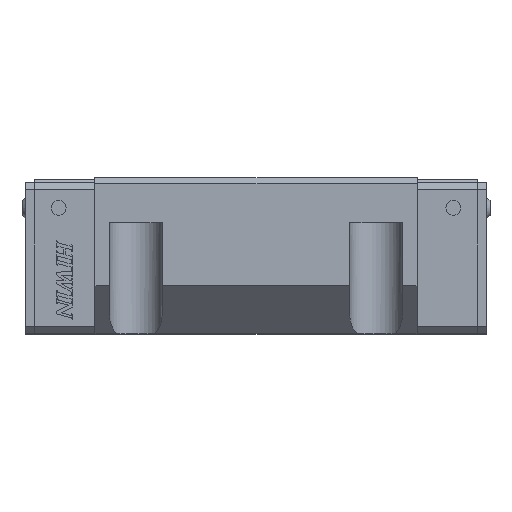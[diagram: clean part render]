
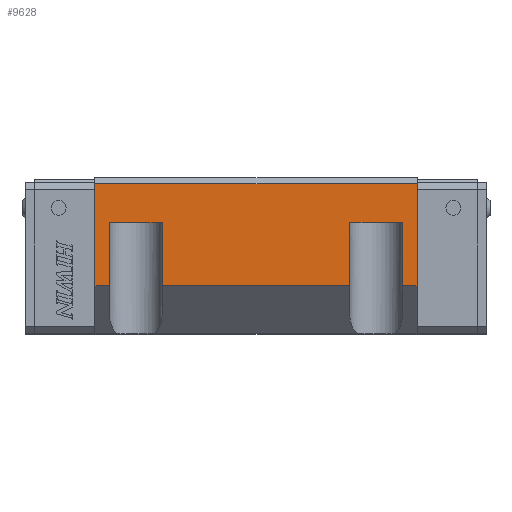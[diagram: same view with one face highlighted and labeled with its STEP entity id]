
A CAD part, top view. The second image highlights one B-rep face of the part: STEP entity #9628.
In plain terms, the highlighted planar face has unit normal (0, 0, 1) as drawn and (-1, 0, 0) by its records, which use the part's own axes.
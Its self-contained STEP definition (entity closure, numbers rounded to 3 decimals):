
#95=PLANE('',#10273);
#487=FACE_OUTER_BOUND('',#1010,.T.);
#1010=EDGE_LOOP('',(#6713,#6714,#6715,#6716,#6717,#6718,#6719,#6720,#6721,
#6722,#6723,#6724));
#1592=LINE('',#13957,#2756);
#1604=LINE('',#13987,#2768);
#1630=LINE('',#14053,#2794);
#1631=LINE('',#14055,#2795);
#1632=LINE('',#14057,#2796);
#1633=LINE('',#14059,#2797);
#1634=LINE('',#14061,#2798);
#1635=LINE('',#14063,#2799);
#1636=LINE('',#14065,#2800);
#1637=LINE('',#14067,#2801);
#1638=LINE('',#14068,#2802);
#1639=LINE('',#14069,#2803);
#2756=VECTOR('',#11152,34.);
#2768=VECTOR('',#11178,34.);
#2794=VECTOR('',#11220,4.85);
#2795=VECTOR('',#11221,21.);
#2796=VECTOR('',#11222,17.5);
#2797=VECTOR('',#11223,21.);
#2798=VECTOR('',#11224,62.5);
#2799=VECTOR('',#11225,21.);
#2800=VECTOR('',#11226,17.5);
#2801=VECTOR('',#11227,21.);
#2802=VECTOR('',#11228,4.85);
#2803=VECTOR('',#11229,107.2);
#4214=VERTEX_POINT('',#13954);
#4215=VERTEX_POINT('',#13956);
#4225=VERTEX_POINT('',#13984);
#4226=VERTEX_POINT('',#13986);
#4258=VERTEX_POINT('',#14052);
#4259=VERTEX_POINT('',#14054);
#4260=VERTEX_POINT('',#14056);
#4261=VERTEX_POINT('',#14058);
#4262=VERTEX_POINT('',#14060);
#4263=VERTEX_POINT('',#14062);
#4264=VERTEX_POINT('',#14064);
#4265=VERTEX_POINT('',#14066);
#5189=EDGE_CURVE('',#4215,#4214,#1592,.T.);
#5204=EDGE_CURVE('',#4226,#4225,#1604,.T.);
#5237=EDGE_CURVE('',#4225,#4258,#1630,.T.);
#5238=EDGE_CURVE('',#4258,#4259,#1631,.T.);
#5239=EDGE_CURVE('',#4259,#4260,#1632,.T.);
#5240=EDGE_CURVE('',#4260,#4261,#1633,.T.);
#5241=EDGE_CURVE('',#4261,#4262,#1634,.T.);
#5242=EDGE_CURVE('',#4262,#4263,#1635,.T.);
#5243=EDGE_CURVE('',#4263,#4264,#1636,.T.);
#5244=EDGE_CURVE('',#4264,#4265,#1637,.T.);
#5245=EDGE_CURVE('',#4265,#4215,#1638,.T.);
#5246=EDGE_CURVE('',#4226,#4214,#1639,.T.);
#6713=ORIENTED_EDGE('',*,*,#5204,.T.);
#6714=ORIENTED_EDGE('',*,*,#5237,.T.);
#6715=ORIENTED_EDGE('',*,*,#5238,.T.);
#6716=ORIENTED_EDGE('',*,*,#5239,.T.);
#6717=ORIENTED_EDGE('',*,*,#5240,.T.);
#6718=ORIENTED_EDGE('',*,*,#5241,.T.);
#6719=ORIENTED_EDGE('',*,*,#5242,.T.);
#6720=ORIENTED_EDGE('',*,*,#5243,.T.);
#6721=ORIENTED_EDGE('',*,*,#5244,.T.);
#6722=ORIENTED_EDGE('',*,*,#5245,.T.);
#6723=ORIENTED_EDGE('',*,*,#5189,.T.);
#6724=ORIENTED_EDGE('',*,*,#5246,.F.);
#9628=ADVANCED_FACE('',(#487),#95,.T.);
#10273=AXIS2_PLACEMENT_3D('',#14051,#11218,#11219);
#11152=DIRECTION('',(0.,1.,0.));
#11178=DIRECTION('',(0.,-1.,0.));
#11218=DIRECTION('center_axis',(-1.,0.,0.));
#11219=DIRECTION('ref_axis',(0.,0.,1.));
#11220=DIRECTION('',(0.,0.,1.));
#11221=DIRECTION('',(0.,1.,0.));
#11222=DIRECTION('',(0.,0.,1.));
#11223=DIRECTION('',(0.,-1.,0.));
#11224=DIRECTION('',(0.,0.,1.));
#11225=DIRECTION('',(0.,1.,0.));
#11226=DIRECTION('',(0.,0.,1.));
#11227=DIRECTION('',(0.,-1.,0.));
#11228=DIRECTION('',(0.,0.,1.));
#11229=DIRECTION('',(0.,0.,1.));
#13954=CARTESIAN_POINT('',(-60.,-12.,53.6));
#13956=CARTESIAN_POINT('',(-60.,-46.,53.6));
#13957=CARTESIAN_POINT('',(-60.,-46.,53.6));
#13984=CARTESIAN_POINT('',(-60.,-46.,-53.6));
#13986=CARTESIAN_POINT('',(-60.,-12.,-53.6));
#13987=CARTESIAN_POINT('',(-60.,-12.,-53.6));
#14051=CARTESIAN_POINT('Origin',(-60.,-46.,-53.6));
#14052=CARTESIAN_POINT('',(-60.,-46.,-48.75));
#14053=CARTESIAN_POINT('',(-60.,-46.,-53.6));
#14054=CARTESIAN_POINT('',(-60.,-25.,-48.75));
#14055=CARTESIAN_POINT('',(-60.,-46.,-48.75));
#14056=CARTESIAN_POINT('',(-60.,-25.,-31.25));
#14057=CARTESIAN_POINT('',(-60.,-25.,-48.75));
#14058=CARTESIAN_POINT('',(-60.,-46.,-31.25));
#14059=CARTESIAN_POINT('',(-60.,-25.,-31.25));
#14060=CARTESIAN_POINT('',(-60.,-46.,31.25));
#14061=CARTESIAN_POINT('',(-60.,-46.,-31.25));
#14062=CARTESIAN_POINT('',(-60.,-25.,31.25));
#14063=CARTESIAN_POINT('',(-60.,-46.,31.25));
#14064=CARTESIAN_POINT('',(-60.,-25.,48.75));
#14065=CARTESIAN_POINT('',(-60.,-25.,31.25));
#14066=CARTESIAN_POINT('',(-60.,-46.,48.75));
#14067=CARTESIAN_POINT('',(-60.,-25.,48.75));
#14068=CARTESIAN_POINT('',(-60.,-46.,48.75));
#14069=CARTESIAN_POINT('',(-60.,-12.,-53.6));
